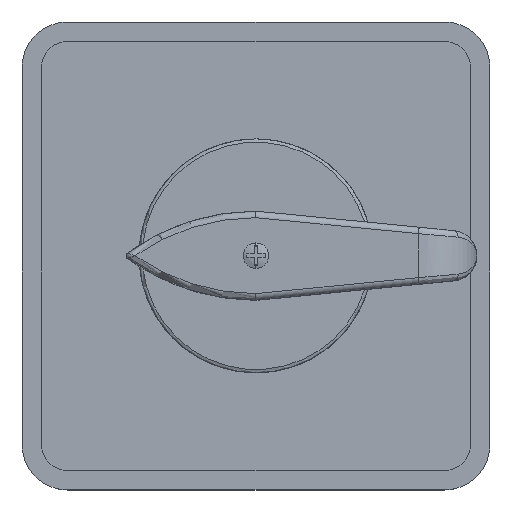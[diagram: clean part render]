
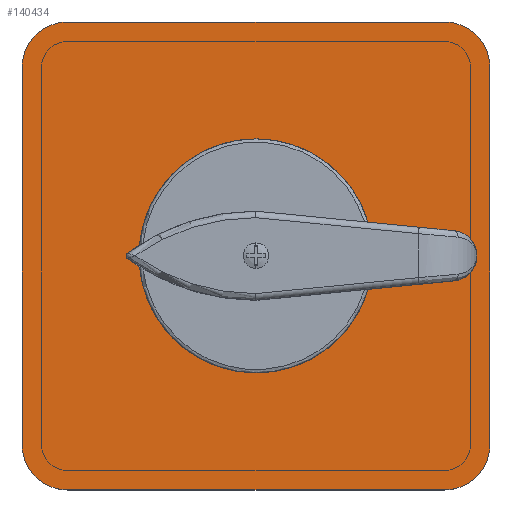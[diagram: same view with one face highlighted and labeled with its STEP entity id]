
A CAD part, top view. The second image highlights one B-rep face of the part: STEP entity #140434.
In plain terms, the highlighted planar face has unit normal (0, 0, 1).
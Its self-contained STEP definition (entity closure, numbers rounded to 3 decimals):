
#47061=CARTESIAN_POINT('',(29.,29.,3.35));
#47062=DIRECTION('',(0.,0.,1.));
#47063=DIRECTION('',(1.,0.,0.));
#47064=AXIS2_PLACEMENT_3D('',#47061,#47062,#47063);
#47066=DIRECTION('',(0.,1.,0.));
#47067=VECTOR('',#47066,58.);
#47068=CARTESIAN_POINT('',(36.,-29.,3.35));
#47069=LINE('',#47068,#47067);
#47070=CARTESIAN_POINT('',(29.,-29.,3.35));
#47071=DIRECTION('',(0.,0.,1.));
#47072=DIRECTION('',(0.,-1.,0.));
#47073=AXIS2_PLACEMENT_3D('',#47070,#47071,#47072);
#47075=DIRECTION('',(1.,0.,0.));
#47076=VECTOR('',#47075,58.);
#47077=CARTESIAN_POINT('',(-29.,-36.,3.35));
#47078=LINE('',#47077,#47076);
#47079=CARTESIAN_POINT('',(-29.,-29.,3.35));
#47080=DIRECTION('',(0.,0.,1.));
#47081=DIRECTION('',(-1.,0.,0.));
#47082=AXIS2_PLACEMENT_3D('',#47079,#47080,#47081);
#47084=DIRECTION('',(0.,-1.,0.));
#47085=VECTOR('',#47084,58.);
#47086=CARTESIAN_POINT('',(-36.,29.,3.35));
#47087=LINE('',#47086,#47085);
#47088=CARTESIAN_POINT('',(-29.,29.,3.35));
#47089=DIRECTION('',(0.,0.,1.));
#47090=DIRECTION('',(0.,1.,0.));
#47091=AXIS2_PLACEMENT_3D('',#47088,#47089,#47090);
#47093=DIRECTION('',(-1.,0.,0.));
#47094=VECTOR('',#47093,58.);
#47095=CARTESIAN_POINT('',(29.,36.,3.35));
#47096=LINE('',#47095,#47094);
#47097=DIRECTION('',(1.,0.,0.));
#47098=VECTOR('',#47097,8.);
#47099=CARTESIAN_POINT('',(-4.,4.,3.35));
#47100=LINE('',#47099,#47098);
#47109=DIRECTION('',(0.,-1.,0.));
#47110=VECTOR('',#47109,8.);
#47111=CARTESIAN_POINT('',(4.,4.,3.35));
#47112=LINE('',#47111,#47110);
#47121=DIRECTION('',(-1.,0.,0.));
#47122=VECTOR('',#47121,8.);
#47123=CARTESIAN_POINT('',(4.,-4.,3.35));
#47124=LINE('',#47123,#47122);
#47133=DIRECTION('',(0.,1.,0.));
#47134=VECTOR('',#47133,8.);
#47135=CARTESIAN_POINT('',(-4.,-4.,3.35));
#47136=LINE('',#47135,#47134);
#47984=CARTESIAN_POINT('',(0.,0.,3.35));
#47985=DIRECTION('',(0.,0.,1.));
#47986=DIRECTION('',(-0.947,0.322,0.));
#47987=AXIS2_PLACEMENT_3D('',#47984,#47985,#47986);
#47994=DIRECTION('',(-1.,0.,0.));
#47995=VECTOR('',#47994,1.727);
#47996=CARTESIAN_POINT('',(-8.52,-2.9,3.35));
#47997=LINE('',#47996,#47995);
#48019=CARTESIAN_POINT('',(0.,0.,3.35));
#48020=DIRECTION('',(0.,0.,1.));
#48021=DIRECTION('',(-0.962,0.272,0.));
#48022=AXIS2_PLACEMENT_3D('',#48019,#48020,#48021);
#48029=DIRECTION('',(1.,0.,0.));
#48030=VECTOR('',#48029,1.727);
#48031=CARTESIAN_POINT('',(-10.247,2.9,3.35));
#48032=LINE('',#48031,#48030);
#48054=CARTESIAN_POINT('',(0.,0.,3.35));
#48055=DIRECTION('',(0.,0.,1.));
#48056=DIRECTION('',(0.322,0.947,0.));
#48057=AXIS2_PLACEMENT_3D('',#48054,#48055,#48056);
#48064=DIRECTION('',(0.,1.,0.));
#48065=VECTOR('',#48064,1.727);
#48066=CARTESIAN_POINT('',(-2.9,8.52,3.35));
#48067=LINE('',#48066,#48065);
#48089=CARTESIAN_POINT('',(0.,0.,3.35));
#48090=DIRECTION('',(0.,0.,1.));
#48091=DIRECTION('',(0.272,0.962,0.));
#48092=AXIS2_PLACEMENT_3D('',#48089,#48090,#48091);
#48099=DIRECTION('',(0.,-1.,0.));
#48100=VECTOR('',#48099,1.727);
#48101=CARTESIAN_POINT('',(2.9,10.247,3.35));
#48102=LINE('',#48101,#48100);
#48124=CARTESIAN_POINT('',(0.,0.,3.35));
#48125=DIRECTION('',(0.,0.,1.));
#48126=DIRECTION('',(0.947,-0.322,0.));
#48127=AXIS2_PLACEMENT_3D('',#48124,#48125,#48126);
#48138=DIRECTION('',(1.,0.,0.));
#48139=VECTOR('',#48138,1.727);
#48140=CARTESIAN_POINT('',(8.52,2.9,3.35));
#48141=LINE('',#48140,#48139);
#48159=CARTESIAN_POINT('',(0.,0.,3.35));
#48160=DIRECTION('',(0.,0.,1.));
#48161=DIRECTION('',(0.962,-0.272,0.));
#48162=AXIS2_PLACEMENT_3D('',#48159,#48160,#48161);
#48169=DIRECTION('',(-1.,0.,0.));
#48170=VECTOR('',#48169,1.727);
#48171=CARTESIAN_POINT('',(10.247,-2.9,3.35));
#48172=LINE('',#48171,#48170);
#48194=CARTESIAN_POINT('',(0.,0.,3.35));
#48195=DIRECTION('',(0.,0.,1.));
#48196=DIRECTION('',(-0.322,-0.947,0.));
#48197=AXIS2_PLACEMENT_3D('',#48194,#48195,#48196);
#48204=DIRECTION('',(0.,-1.,0.));
#48205=VECTOR('',#48204,1.727);
#48206=CARTESIAN_POINT('',(2.9,-8.52,3.35));
#48207=LINE('',#48206,#48205);
#48229=CARTESIAN_POINT('',(0.,0.,3.35));
#48230=DIRECTION('',(0.,0.,1.));
#48231=DIRECTION('',(-0.272,-0.962,0.));
#48232=AXIS2_PLACEMENT_3D('',#48229,#48230,#48231);
#48239=DIRECTION('',(0.,1.,0.));
#48240=VECTOR('',#48239,1.727);
#48241=CARTESIAN_POINT('',(-2.9,-10.247,3.35));
#48242=LINE('',#48241,#48240);
#63697=CARTESIAN_POINT('',(36.,29.,3.35));
#63698=VERTEX_POINT('',#63697);
#63699=CARTESIAN_POINT('',(29.,36.,3.35));
#63700=VERTEX_POINT('',#63699);
#63705=CARTESIAN_POINT('',(29.,-36.,3.35));
#63706=VERTEX_POINT('',#63705);
#63707=CARTESIAN_POINT('',(36.,-29.,3.35));
#63708=VERTEX_POINT('',#63707);
#63713=CARTESIAN_POINT('',(-36.,-29.,3.35));
#63714=VERTEX_POINT('',#63713);
#63715=CARTESIAN_POINT('',(-29.,-36.,3.35));
#63716=VERTEX_POINT('',#63715);
#63721=CARTESIAN_POINT('',(-29.,36.,3.35));
#63722=VERTEX_POINT('',#63721);
#63723=CARTESIAN_POINT('',(-36.,29.,3.35));
#63724=VERTEX_POINT('',#63723);
#80701=CARTESIAN_POINT('',(-2.9,-8.52,3.35));
#80702=CARTESIAN_POINT('',(2.9,-8.52,3.35));
#80703=VERTEX_POINT('',#80701);
#80704=VERTEX_POINT('',#80702);
#80705=CARTESIAN_POINT('',(8.52,-2.9,3.35));
#80706=CARTESIAN_POINT('',(8.52,2.9,3.35));
#80707=VERTEX_POINT('',#80705);
#80708=VERTEX_POINT('',#80706);
#80709=CARTESIAN_POINT('',(2.9,8.52,3.35));
#80710=CARTESIAN_POINT('',(-2.9,8.52,3.35));
#80711=VERTEX_POINT('',#80709);
#80712=VERTEX_POINT('',#80710);
#80713=CARTESIAN_POINT('',(-8.52,2.9,3.35));
#80714=CARTESIAN_POINT('',(-8.52,-2.9,3.35));
#80715=VERTEX_POINT('',#80713);
#80716=VERTEX_POINT('',#80714);
#80733=CARTESIAN_POINT('',(10.247,-2.9,3.35));
#80734=VERTEX_POINT('',#80733);
#80737=CARTESIAN_POINT('',(10.247,2.9,3.35));
#80738=VERTEX_POINT('',#80737);
#80741=CARTESIAN_POINT('',(2.9,10.247,3.35));
#80742=VERTEX_POINT('',#80741);
#80745=CARTESIAN_POINT('',(-2.9,10.247,3.35));
#80746=VERTEX_POINT('',#80745);
#80749=CARTESIAN_POINT('',(-10.247,2.9,3.35));
#80750=VERTEX_POINT('',#80749);
#80753=CARTESIAN_POINT('',(-10.247,-2.9,3.35));
#80754=VERTEX_POINT('',#80753);
#80757=CARTESIAN_POINT('',(-2.9,-10.247,3.35));
#80758=VERTEX_POINT('',#80757);
#80761=CARTESIAN_POINT('',(2.9,-10.247,3.35));
#80762=VERTEX_POINT('',#80761);
#80765=CARTESIAN_POINT('',(-4.,4.,3.35));
#80766=CARTESIAN_POINT('',(4.,4.,3.35));
#80767=VERTEX_POINT('',#80765);
#80768=VERTEX_POINT('',#80766);
#80773=CARTESIAN_POINT('',(4.,-4.,3.35));
#80774=VERTEX_POINT('',#80773);
#80777=CARTESIAN_POINT('',(-4.,-4.,3.35));
#80778=VERTEX_POINT('',#80777);
#140369=CARTESIAN_POINT('',(0.,0.,3.35));
#140370=DIRECTION('',(0.,0.,1.));
#140371=DIRECTION('',(1.,0.,0.));
#140372=AXIS2_PLACEMENT_3D('',#140369,#140370,#140371);
#140373=PLANE('',#140372);
#140374=ORIENTED_EDGE('',*,*,#140265,.F.);
#140375=ORIENTED_EDGE('',*,*,#140281,.F.);
#140376=ORIENTED_EDGE('',*,*,#140294,.F.);
#140377=ORIENTED_EDGE('',*,*,#140309,.F.);
#140378=ORIENTED_EDGE('',*,*,#140322,.F.);
#140379=ORIENTED_EDGE('',*,*,#140337,.F.);
#140380=ORIENTED_EDGE('',*,*,#140350,.F.);
#140381=ORIENTED_EDGE('',*,*,#140362,.F.);
#140382=EDGE_LOOP('',(#140374,#140375,#140376,#140377,#140378,#140379,#140380,
#140381));
#140383=FACE_OUTER_BOUND('',#140382,.F.);
#140385=ORIENTED_EDGE('',*,*,#140384,.F.);
#140387=ORIENTED_EDGE('',*,*,#140386,.F.);
#140389=ORIENTED_EDGE('',*,*,#140388,.F.);
#140391=ORIENTED_EDGE('',*,*,#140390,.F.);
#140392=EDGE_LOOP('',(#140385,#140387,#140389,#140391));
#140393=FACE_BOUND('',#140392,.F.);
#140395=ORIENTED_EDGE('',*,*,#140394,.F.);
#140397=ORIENTED_EDGE('',*,*,#140396,.F.);
#140399=ORIENTED_EDGE('',*,*,#140398,.T.);
#140401=ORIENTED_EDGE('',*,*,#140400,.F.);
#140402=EDGE_LOOP('',(#140395,#140397,#140399,#140401));
#140403=FACE_BOUND('',#140402,.F.);
#140405=ORIENTED_EDGE('',*,*,#140404,.F.);
#140407=ORIENTED_EDGE('',*,*,#140406,.F.);
#140409=ORIENTED_EDGE('',*,*,#140408,.T.);
#140411=ORIENTED_EDGE('',*,*,#140410,.F.);
#140412=EDGE_LOOP('',(#140405,#140407,#140409,#140411));
#140413=FACE_BOUND('',#140412,.F.);
#140415=ORIENTED_EDGE('',*,*,#140414,.F.);
#140417=ORIENTED_EDGE('',*,*,#140416,.F.);
#140419=ORIENTED_EDGE('',*,*,#140418,.T.);
#140421=ORIENTED_EDGE('',*,*,#140420,.F.);
#140422=EDGE_LOOP('',(#140415,#140417,#140419,#140421));
#140423=FACE_BOUND('',#140422,.F.);
#140425=ORIENTED_EDGE('',*,*,#140424,.F.);
#140427=ORIENTED_EDGE('',*,*,#140426,.F.);
#140429=ORIENTED_EDGE('',*,*,#140428,.T.);
#140431=ORIENTED_EDGE('',*,*,#140430,.F.);
#140432=EDGE_LOOP('',(#140425,#140427,#140429,#140431));
#140433=FACE_BOUND('',#140432,.F.);
#140434=ADVANCED_FACE('',(#140383,#140393,#140403,#140413,#140423,#140433),
#140373,.T.);
#47065=CIRCLE('',#47064,7.);
#47074=CIRCLE('',#47073,7.);
#47083=CIRCLE('',#47082,7.);
#47092=CIRCLE('',#47091,7.);
#47988=CIRCLE('',#47987,9.);
#48023=CIRCLE('',#48022,10.65);
#48058=CIRCLE('',#48057,9.);
#48093=CIRCLE('',#48092,10.65);
#48128=CIRCLE('',#48127,9.);
#48163=CIRCLE('',#48162,10.65);
#48198=CIRCLE('',#48197,9.);
#48233=CIRCLE('',#48232,10.65);
#140265=EDGE_CURVE('',#63698,#63700,#47065,.T.);
#140281=EDGE_CURVE('',#63708,#63698,#47069,.T.);
#140294=EDGE_CURVE('',#63706,#63708,#47074,.T.);
#140309=EDGE_CURVE('',#63716,#63706,#47078,.T.);
#140322=EDGE_CURVE('',#63714,#63716,#47083,.T.);
#140337=EDGE_CURVE('',#63724,#63714,#47087,.T.);
#140350=EDGE_CURVE('',#63722,#63724,#47092,.T.);
#140362=EDGE_CURVE('',#63700,#63722,#47096,.T.);
#140384=EDGE_CURVE('',#80767,#80768,#47100,.T.);
#140386=EDGE_CURVE('',#80778,#80767,#47136,.T.);
#140388=EDGE_CURVE('',#80774,#80778,#47124,.T.);
#140390=EDGE_CURVE('',#80768,#80774,#47112,.T.);
#140394=EDGE_CURVE('',#80715,#80716,#47988,.T.);
#140396=EDGE_CURVE('',#80750,#80715,#48032,.T.);
#140398=EDGE_CURVE('',#80750,#80754,#48023,.T.);
#140400=EDGE_CURVE('',#80716,#80754,#47997,.T.);
#140404=EDGE_CURVE('',#80711,#80712,#48058,.T.);
#140406=EDGE_CURVE('',#80742,#80711,#48102,.T.);
#140408=EDGE_CURVE('',#80742,#80746,#48093,.T.);
#140410=EDGE_CURVE('',#80712,#80746,#48067,.T.);
#140414=EDGE_CURVE('',#80707,#80708,#48128,.T.);
#140416=EDGE_CURVE('',#80734,#80707,#48172,.T.);
#140418=EDGE_CURVE('',#80734,#80738,#48163,.T.);
#140420=EDGE_CURVE('',#80708,#80738,#48141,.T.);
#140424=EDGE_CURVE('',#80703,#80704,#48198,.T.);
#140426=EDGE_CURVE('',#80758,#80703,#48242,.T.);
#140428=EDGE_CURVE('',#80758,#80762,#48233,.T.);
#140430=EDGE_CURVE('',#80704,#80762,#48207,.T.);
